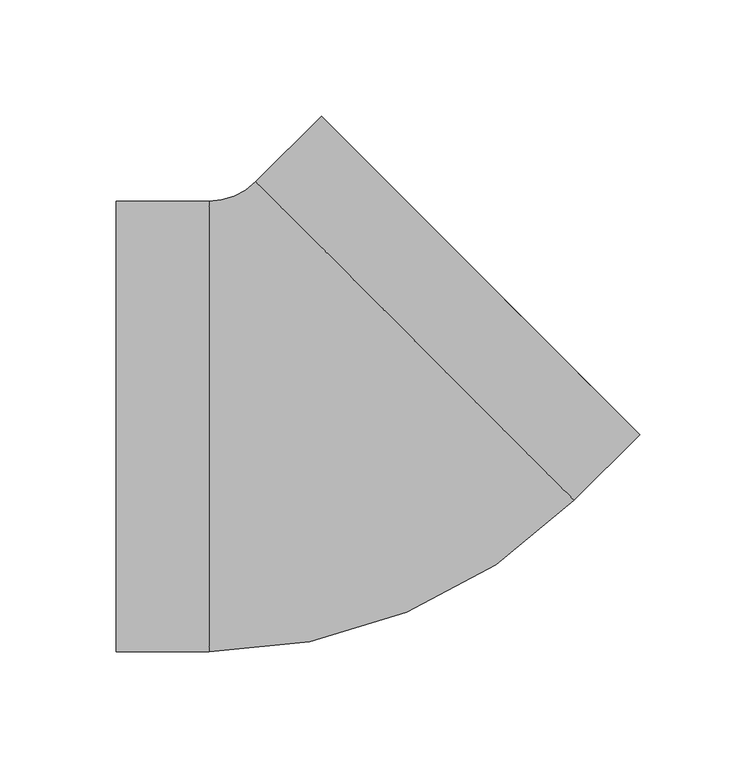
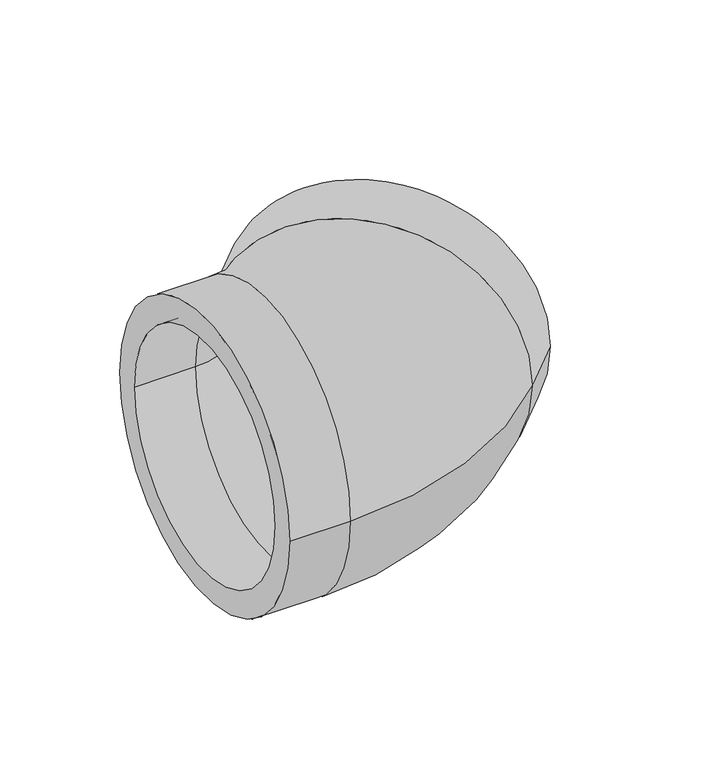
"""IFC4 building model written with IfcOpenShell, lengths in millimetres: duct fitting geometry, HEATPEX - ARIA ADURO - Kolano 45 : HEATPEX - ARIA ADURO - Kolano 45."""

from ifc_helpers import new_model, si_unit, point, frame, origin, place, context, project, spatial, polyline, circle_curve, ellipse_curve, trimmed, source, transform, mapped, element, save
from ifc_brep_helpers import plane_surface, cylinder_surface, revolved_surface, advanced_brep


def duct_fitting_c02a2270(model_context):
    return source(origin(), model_context, "Body", "AdvancedBrep", [
        advanced_brep(
        [(-92.0, -97.0, 0.0), (-92.0, 97.0, 0.0), (-92.0, -80.0, 0.0), (-92.0, 80.0, 0.0), (-52.0, -80.0, 0.0), (-52.0, 80.0, 0.0), (-52.0, -97.0, 0.0), (-52.0, 97.0, 0.0), (-19.7989899, 93.3380951, 0.0), (93.3380951, -19.7989899, 0.0), (36.7695526, 36.7695526, -80.0), (36.7695526, 36.7695526, 80.0), (-31.8198052, 105.3589104, 0.0), (105.3589104, -31.8198052, 0.0), (36.7695526, 36.7695526, 97.0), (36.7695526, 36.7695526, -97.0), (133.6431816, -3.5355339, 0.0), (-3.5355339, 133.6431816, 0.0), (121.6223664, 8.4852814, 0.0), (8.4852814, 121.6223664, 0.0)],
        [
            (0, 1, circle_curve(frame((-92.0, 0.0, 0.0), z_axis=(-1.0, 0.0, 0.0), x_axis=(0.0, 1.0, 0.0)), 97.0)),
            (1, 0, circle_curve(frame((-92.0, 0.0, 0.0), z_axis=(-1.0, 0.0, 0.0), x_axis=(0.0, 1.0, 0.0)), 97.0)),
            (2, 3, circle_curve(frame((-92.0, 0.0, 0.0), z_axis=(1.0, 0.0, 0.0), x_axis=(0.0, 1.0, 0.0)), 80.0)),
            (3, 2, circle_curve(frame((-92.0, 0.0, 0.0), z_axis=(1.0, 0.0, 0.0), x_axis=(0.0, 1.0, 0.0)), 80.0)),
            (2, 4),
            (4, 5, circle_curve(frame((-52.0, 0.0, 0.0), z_axis=(1.0, 0.0, 0.0), x_axis=(0.0, 1.0, 0.0)), 80.0)),
            (5, 3),
            (5, 4, circle_curve(frame((-52.0, 0.0, 0.0), z_axis=(1.0, 0.0, 0.0), x_axis=(0.0, 1.0, 0.0)), 80.0)),
            (0, 6),
            (6, 7, circle_curve(frame((-52.0, 0.0, 0.0), z_axis=(-1.0, 0.0, 0.0), x_axis=(0.0, 1.0, 0.0)), 97.0)),
            (7, 1),
            (7, 6, circle_curve(frame((-52.0, 0.0, 0.0), z_axis=(-1.0, 0.0, 0.0), x_axis=(0.0, 1.0, 0.0)), 97.0)),
            (8, 5, circle_curve(frame((-52.0, 125.5391052, 0.0), z_axis=(0.0, 0.0, -1.0), x_axis=(0.0, -1.0, 0.0)), 45.5391052)),
            (4, 9, circle_curve(frame((-52.0, 125.5391052, 0.0), z_axis=(0.0, 0.0, 1.0), x_axis=(0.0, -1.0, 0.0)), 205.5391052)),
            (9, 10, circle_curve(frame((36.7695526, 36.7695526, 0.0), z_axis=(0.7071067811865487, 0.7071067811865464, 0.0), x_axis=(-0.7071067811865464, 0.7071067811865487, 0.0)), 80.0)),
            (10, 8, circle_curve(frame((36.7695526, 36.7695526, 0.0), z_axis=(0.7071067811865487, 0.7071067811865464, 0.0), x_axis=(-0.7071067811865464, 0.7071067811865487, 0.0)), 80.0)),
            (8, 11, circle_curve(frame((36.7695526, 36.7695526, 0.0), z_axis=(0.7071067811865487, 0.7071067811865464, 0.0), x_axis=(-0.7071067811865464, 0.7071067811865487, 0.0)), 80.0)),
            (11, 9, circle_curve(frame((36.7695526, 36.7695526, 0.0), z_axis=(0.7071067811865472, 0.7071067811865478, 0.0), x_axis=(-0.7071067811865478, 0.7071067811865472, 0.0)), 80.0)),
            (12, 7, circle_curve(frame((-52.0, 125.5391052, 0.0), z_axis=(0.0, 0.0, -1.0), x_axis=(0.0, -1.0, 0.0)), 28.5391052)),
            (6, 13, circle_curve(frame((-52.0, 125.5391052, 0.0), z_axis=(0.0, 0.0, 1.0), x_axis=(0.0, -1.0, 0.0)), 222.5391052)),
            (13, 14, circle_curve(frame((36.7695526, 36.7695526, 0.0), z_axis=(-0.7071067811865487, -0.7071067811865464, 0.0), x_axis=(-0.7071067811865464, 0.7071067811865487, 0.0)), 97.0)),
            (14, 12, circle_curve(frame((36.7695526, 36.7695526, 0.0), z_axis=(-0.7071067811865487, -0.7071067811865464, 0.0), x_axis=(-0.7071067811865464, 0.7071067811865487, 0.0)), 97.0)),
            (12, 15, circle_curve(frame((36.7695526, 36.7695526, 0.0), z_axis=(-0.7071067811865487, -0.7071067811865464, 0.0), x_axis=(-0.7071067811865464, 0.7071067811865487, 0.0)), 97.0)),
            (15, 13, circle_curve(frame((36.7695526, 36.7695526, 0.0), z_axis=(-0.7071067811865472, -0.7071067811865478, 0.0), x_axis=(-0.7071067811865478, 0.7071067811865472, 0.0)), 97.0)),
            (16, 17, circle_curve(frame((65.0538239, 65.0538239, 0.0), z_axis=(0.7071067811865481, 0.7071067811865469, 0.0), x_axis=(-0.7071067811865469, 0.7071067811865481, 0.0)), 97.0)),
            (17, 16, circle_curve(frame((65.0538239, 65.0538239, 0.0), z_axis=(0.7071067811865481, 0.7071067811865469, 0.0), x_axis=(-0.7071067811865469, 0.7071067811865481, 0.0)), 97.0)),
            (18, 19, circle_curve(frame((65.0538239, 65.0538239, 0.0), z_axis=(-0.7071067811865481, -0.7071067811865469, 0.0), x_axis=(-0.7071067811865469, 0.7071067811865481, 0.0)), 80.0)),
            (19, 18, circle_curve(frame((65.0538239, 65.0538239, 0.0), z_axis=(-0.7071067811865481, -0.7071067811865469, 0.0), x_axis=(-0.7071067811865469, 0.7071067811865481, 0.0)), 80.0)),
            (19, 8),
            (9, 18),
            (17, 12),
            (13, 16),
        ],
        [
            plane_surface(frame((-92.0, 0.0, 0.0), z_axis=(-1.0, 0.0, 0.0), x_axis=(0.0, 0.0, 1.0))),
            revolved_surface(polyline([(-52.0, 80.0, 0.0), (-92.0, 80.0, 0.0)]), (-92.0, 0.0, 0.0), (1.0, 0.0, 0.0)),
            cylinder_surface(frame((-92.0, 0.0, 0.0), z_axis=(-1.0, 0.0, 0.0), x_axis=(0.0, 1.0, 0.0)), 97.0),
            revolved_surface(trimmed(ellipse_curve(frame((-52.0, 0.0, 0.0), z_axis=(1.0, 0.0, 0.0), x_axis=(0.0, 1.0, 0.0)), 80.0, 80.0), [point((-52.0, -80.0, 0.0))], [point((-52.0, 80.0, 0.0))], True, "CARTESIAN"), (-52.0, 125.5391052, 0.0), (0.0, 0.0, 1.0)),
            revolved_surface(trimmed(ellipse_curve(frame((-52.0, 0.0, 0.0), z_axis=(1.0, 0.0, 0.0), x_axis=(0.0, 1.0, 0.0)), 80.0, 80.0), [point((-52.0, 80.0, 0.0))], [point((-52.0, -80.0, 0.0))], True, "CARTESIAN"), (-52.0, 125.5391052, 0.0), (0.0, 0.0, 1.0)),
            revolved_surface(trimmed(ellipse_curve(frame((-52.0, 0.0, 0.0), z_axis=(-1.0, 0.0, 0.0), x_axis=(0.0, 1.0, 0.0)), 97.0, 97.0), [point((-52.0, -97.0, 0.0))], [point((-52.0, 97.0, 0.0))], True, "CARTESIAN"), (-52.0, 125.5391052, 0.0), (0.0, 0.0, 1.0)),
            revolved_surface(trimmed(ellipse_curve(frame((-52.0, 0.0, 0.0), z_axis=(-1.0, 0.0, 0.0), x_axis=(0.0, 1.0, 0.0)), 97.0, 97.0), [point((-52.0, 97.0, 0.0))], [point((-52.0, -97.0, 0.0))], True, "CARTESIAN"), (-52.0, 125.5391052, 0.0), (0.0, 0.0, 1.0)),
            plane_surface(frame((65.0538239, 65.0538239, 0.0), z_axis=(0.7071067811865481, 0.7071067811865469, 0.0), x_axis=(0.0, 0.0, 1.0))),
            revolved_surface(polyline([(8.485281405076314, 121.62236639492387, 0.0), (-19.798989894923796, 93.3380950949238, 0.0)]), (36.7695526, 36.7695526, 0.0), (0.7071067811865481, 0.7071067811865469, 0.0)),
            revolved_surface(polyline([(8.485281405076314, 121.62236639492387, 0.0), (-19.798989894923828, 93.33809509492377, 0.0)]), (36.7695526, 36.7695526, 0.0), (0.7071067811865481, 0.7071067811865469, 0.0)),
            cylinder_surface(frame((36.7695526, 36.7695526, 0.0), z_axis=(-0.7071067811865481, -0.7071067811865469, 0.0), x_axis=(-0.7071067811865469, 0.7071067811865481, 0.0)), 97.0),
        ],
        [
            (0, [[1, 2], [3, 4]]),
            (1, [[-3, 5, 6, 7]]),
            (1, [[-4, -7, 8, -5]]),
            (2, [[-1, 9, 10, 11]]),
            (2, [[-2, -11, 12, -9]]),
            (3, [[13, -6, 14, 15, 16]]),
            (4, [[-13, 17, 18, -14, -8]]),
            (5, [[19, -10, 20, 21, 22]]),
            (6, [[-19, 23, 24, -20, -12]]),
            (7, [[25, 26], [27, 28]]),
            (8, [[-28, 29, -16, -15, 30]]),
            (9, [[-27, -30, -18, -17, -29]]),
            (10, [[-26, 31, -22, -21, 32]]),
            (10, [[-25, -32, -24, -23, -31]]),
        ],
    ),
    ])


if __name__ == "__main__":
    model = new_model("IFC4")
    model_context = context("Model", 3, world=origin())
    ifc_project = project(units=[si_unit("LENGTHUNIT", "METRE", prefix="MILLI")], contexts=[model_context])
    site = spatial("IfcSite", under=ifc_project)
    building = spatial("IfcBuilding", under=site)
    placement = place(None, origin())
    duct_fitting_shape = duct_fitting_c02a2270(model_context)
    element("IfcDuctFitting", 1, ObjectType="HEATPEX - ARIA ADURO - Kolano 45 : HEATPEX - ARIA ADURO - Kolano 45", at=placement, inside=building, context=model_context, shape_type="MappedRepresentation", body=[
        mapped(duct_fitting_shape, transform((0.0, 0.0, 0.0), x_axis=(1.0, 0.0, 0.0), y_axis=(0.0, 1.0, 0.0), z_axis=(0.0, 0.0, 1.0))),
    ])
    save(model, "model.ifc")
